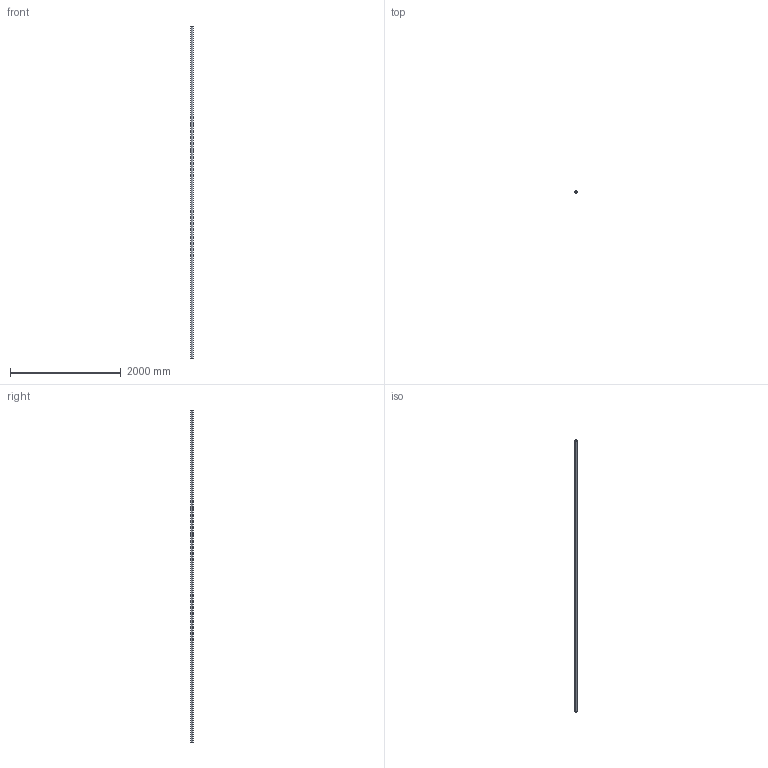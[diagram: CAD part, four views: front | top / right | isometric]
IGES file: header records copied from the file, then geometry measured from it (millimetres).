
Start section: SolidWorks IGES file using analytic representation for surfaces
Global section: file name: C:\Users\IanO\Desktop\L1771_v2\L1771.40_v2\L1771.40_v2_20230705_IGES\L1771.40-6000.igs; native system: SolidWorks 2019; preprocessor: SolidWorks 2019; author: IanO; date: 230705.163507; units: millimetre
Bounding box: 40 x 40 x 6000 mm (x, y, z)
Surface area: 1283051.6 mm2 (no closed solid volume)
Topology: 0 solids, 0 shells, 6 faces, 272 edges, 272 vertices
Faces by surface type: revolution 4, bspline 2
